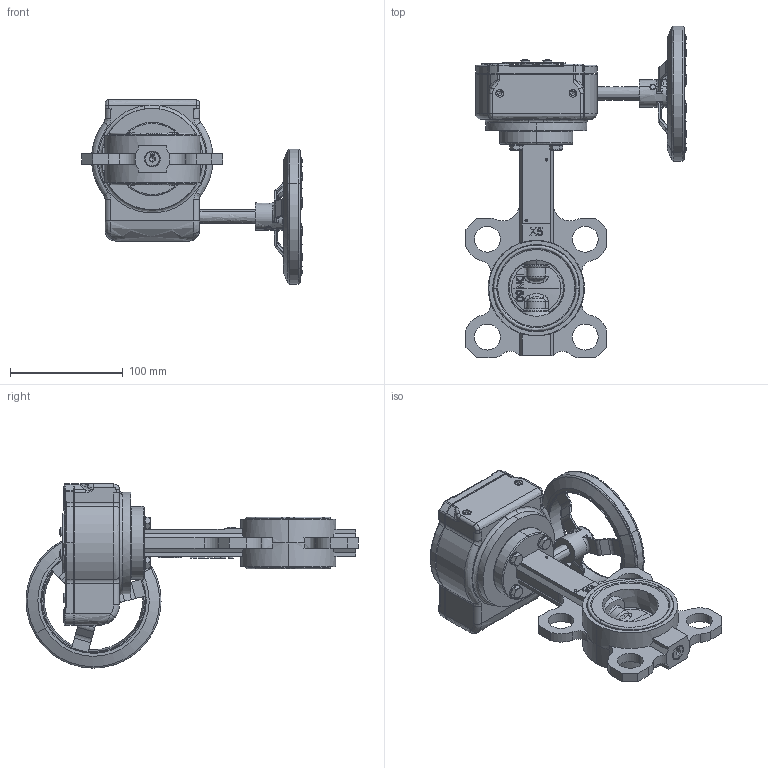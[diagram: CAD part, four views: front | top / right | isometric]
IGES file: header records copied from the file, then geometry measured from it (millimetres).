
Start section: SolidWorks IGES file using NURBS representation for surfaces
Global section: file name: H:\BE BIBLIOTHEQUE 3D\Projet_Biblio3D_2016\FSK\VPI\VPI-02\VPI-08 DN50.Igs; native system: SolidWorks 2014; preprocessor: SolidWorks 2014; author: a.cartier; date: 160929.160240; units: millimetre
Bounding box: 195.58 x 295 x 163.75 mm (x, y, z)
Volume: 756284.3 mm3; surface area: 268700.3 mm2
Topology: 32 solids, 34 shells, 2705 faces, 7049 edges, 4391 vertices
Faces by surface type: bspline 2705
